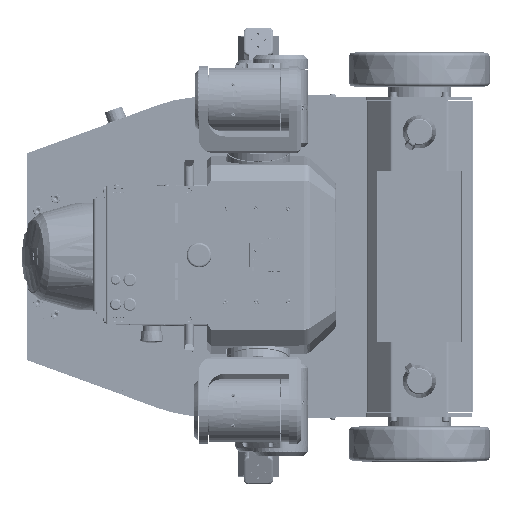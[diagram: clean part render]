
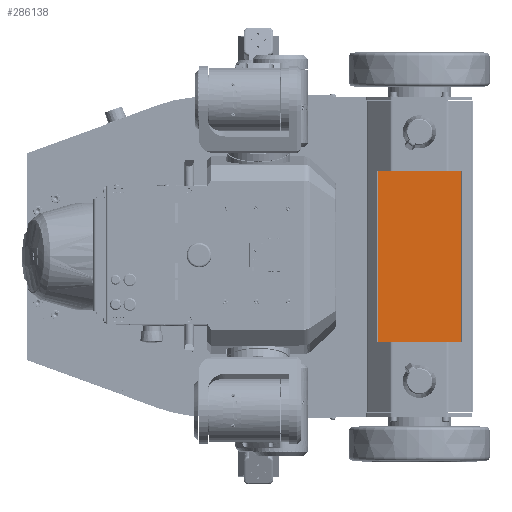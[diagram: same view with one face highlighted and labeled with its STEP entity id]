
A CAD part, top view. The second image highlights one B-rep face of the part: STEP entity #286138.
In plain terms, the highlighted planar face has unit normal (0, 0, 1).
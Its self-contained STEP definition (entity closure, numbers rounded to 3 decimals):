
#12753=PLANE('',#306111);
#23542=FACE_OUTER_BOUND('',#40138,.T.);
#40138=EDGE_LOOP('',(#193468,#193469,#193470,#193471));
#57091=LINE('',#449053,#79489);
#57092=LINE('',#449055,#79490);
#57107=LINE('',#449096,#79505);
#59067=LINE('',#462318,#81465);
#79489=VECTOR('',#333682,1.);
#79490=VECTOR('',#333685,1.);
#79505=VECTOR('',#333720,1.);
#81465=VECTOR('',#340746,1.);
#114860=VERTEX_POINT('',#449017);
#114865=VERTEX_POINT('',#449027);
#114868=VERTEX_POINT('',#449034);
#114869=VERTEX_POINT('',#449037);
#143040=EDGE_CURVE('',#114860,#114868,#57091,.T.);
#143041=EDGE_CURVE('',#114865,#114869,#57092,.T.);
#143062=EDGE_CURVE('',#114869,#114868,#57107,.T.);
#146707=EDGE_CURVE('',#114860,#114865,#59067,.T.);
#193468=ORIENTED_EDGE('',*,*,#143062,.F.);
#193469=ORIENTED_EDGE('',*,*,#143041,.F.);
#193470=ORIENTED_EDGE('',*,*,#146707,.F.);
#193471=ORIENTED_EDGE('',*,*,#143040,.T.);
#286138=ADVANCED_FACE('',(#23542),#12753,.F.);
#306111=AXIS2_PLACEMENT_3D('',#462859,#340884,#340885);
#333682=DIRECTION('',(0.,1.,0.));
#333685=DIRECTION('',(0.,1.,0.));
#333720=DIRECTION('',(1.,0.,0.));
#340746=DIRECTION('',(-1.,0.,0.));
#340884=DIRECTION('center_axis',(0.,0.,
-1.));
#340885=DIRECTION('ref_axis',(0.,-1.,0.));
#449017=CARTESIAN_POINT('',(534.149,-120.5,-89.349));
#449027=CARTESIAN_POINT('',(415.851,-120.5,-89.349));
#449034=CARTESIAN_POINT('',(534.148,120.5,-89.349));
#449037=CARTESIAN_POINT('',(415.852,120.5,-89.349));
#449053=CARTESIAN_POINT('',(534.149,-60.25,-89.349));
#449055=CARTESIAN_POINT('',(415.851,-60.25,-89.349));
#449096=CARTESIAN_POINT('',(474.999,120.5,-89.349));
#462318=CARTESIAN_POINT('',(474.999,-120.5,-89.349));
#462859=CARTESIAN_POINT('Origin',(474.999,0.,
-89.349));
